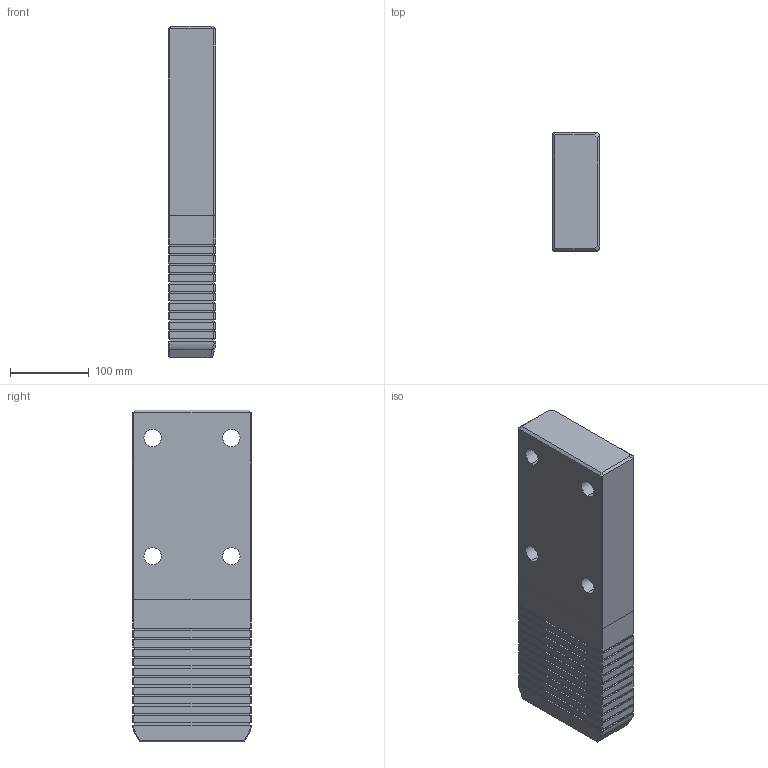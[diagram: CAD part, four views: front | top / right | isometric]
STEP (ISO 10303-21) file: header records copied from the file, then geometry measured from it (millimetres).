
FILE_DESCRIPTION((''),'2;1');
FILE_NAME('','2010-09-22T13:24:42+09:00',('misumi'),(''),'M/STEP i/f 1R2-14','CADmeister v5.1','');
FILE_SCHEMA(('AUTOMOTIVE_DESIGN'));
Length unit declared in the file: millimetre
Products named in the file (1): GWAZ150-420
Bounding box: 60 x 150 x 420 mm (x, y, z)
Volume: 3646596.7 mm3; surface area: 217875.8 mm2
Topology: 1 solids, 1 shells, 254 faces, 667 edges, 438 vertices
Faces by surface type: plane 233, cylinder 13, bspline 6, cone 2
Entity records: 8048 total; most frequent: CARTESIAN_POINT 1700, ORIENTED_EDGE 1330, DIRECTION 1173, EDGE_CURVE 665, LINE 623, VECTOR 623, VERTEX_POINT 436, EDGE_LOOP 285
